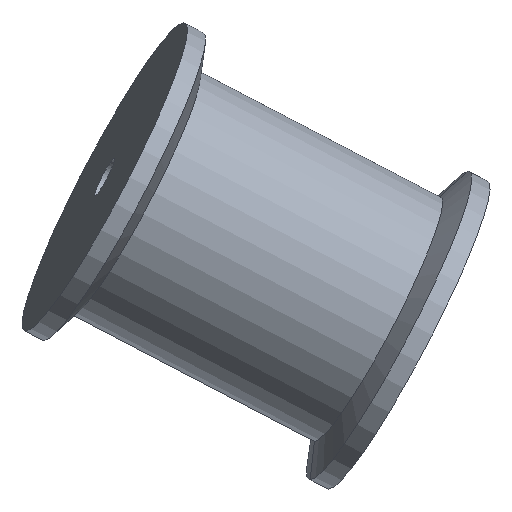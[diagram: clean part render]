
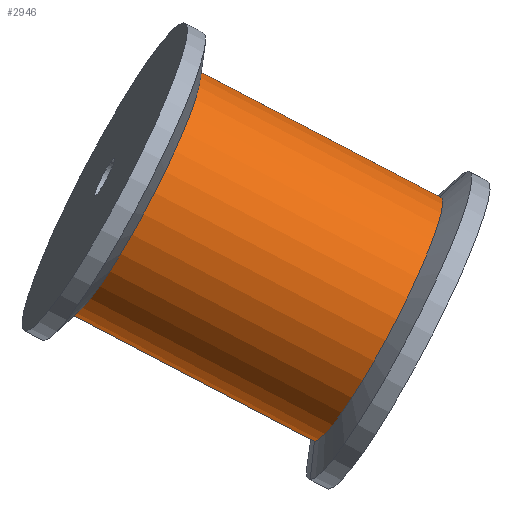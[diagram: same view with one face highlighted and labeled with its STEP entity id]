
A CAD part, front view. The second image highlights one B-rep face of the part: STEP entity #2946.
In plain terms, the highlighted cylindrical face has radius 20 mm (diameter 40 mm), a partial arc.
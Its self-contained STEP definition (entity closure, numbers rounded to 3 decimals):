
#89 = DIRECTION ( 'NONE',  ( -1., 0., 0. ) ) ;
#743 = CIRCLE ( 'NONE', #6991, 20. ) ;
#749 = EDGE_LOOP ( 'NONE', ( #3933, #4457, #9309, #9425 ) ) ;
#939 = VECTOR ( 'NONE', #9003, 1000. ) ;
#1070 = VERTEX_POINT ( 'NONE', #3242 ) ;
#1212 = CARTESIAN_POINT ( 'NONE',  ( 0., 0., 25. ) ) ;
#1274 = CYLINDRICAL_SURFACE ( 'NONE', #2013, 20. ) ;
#1624 = DIRECTION ( 'NONE',  ( 0., 0., -1. ) ) ;
#2013 = AXIS2_PLACEMENT_3D ( 'NONE', #1212, #3008, #2950 ) ;
#2020 = CARTESIAN_POINT ( 'NONE',  ( -20., 0., 20. ) ) ;
#2084 = CARTESIAN_POINT ( 'NONE',  ( 20., 0., -20. ) ) ;
#2387 = AXIS2_PLACEMENT_3D ( 'NONE', #3780, #9196, #89 ) ;
#2560 = LINE ( 'NONE', #2688, #939 ) ;
#2640 = DIRECTION ( 'NONE',  ( -1., 0., 0. ) ) ;
#2688 = CARTESIAN_POINT ( 'NONE',  ( 20., 0., 25. ) ) ;
#2701 = CARTESIAN_POINT ( 'NONE',  ( 20., 0., 20. ) ) ;
#2946 = ADVANCED_FACE ( 'NONE', ( #4902 ), #1274, .T. ) ;
#2950 = DIRECTION ( 'NONE',  ( -1., 0., 0. ) ) ;
#3008 = DIRECTION ( 'NONE',  ( 0., 0., -1. ) ) ;
#3242 = CARTESIAN_POINT ( 'NONE',  ( -20., 0., -20. ) ) ;
#3715 = CIRCLE ( 'NONE', #2387, 20. ) ;
#3780 = CARTESIAN_POINT ( 'NONE',  ( 0., 0., 20. ) ) ;
#3933 = ORIENTED_EDGE ( 'NONE', *, *, #6745, .F. ) ;
#4457 = ORIENTED_EDGE ( 'NONE', *, *, #9348, .T. ) ;
#4545 = EDGE_CURVE ( 'NONE', #5149, #1070, #743, .T. ) ;
#4566 = VERTEX_POINT ( 'NONE', #2701 ) ;
#4902 = FACE_OUTER_BOUND ( 'NONE', #749, .T. ) ;
#5149 = VERTEX_POINT ( 'NONE', #2084 ) ;
#5224 = VECTOR ( 'NONE', #1624, 1000. ) ;
#5340 = VERTEX_POINT ( 'NONE', #2020 ) ;
#6072 = LINE ( 'NONE', #9735, #5224 ) ;
#6745 = EDGE_CURVE ( 'NONE', #4566, #5149, #2560, .T. ) ;
#6991 = AXIS2_PLACEMENT_3D ( 'NONE', #10807, #9015, #2640 ) ;
#9003 = DIRECTION ( 'NONE',  ( 0., 0., -1. ) ) ;
#9015 = DIRECTION ( 'NONE',  ( 0., 0., -1. ) ) ;
#9196 = DIRECTION ( 'NONE',  ( 0., 0., -1. ) ) ;
#9309 = ORIENTED_EDGE ( 'NONE', *, *, #9701, .T. ) ;
#9348 = EDGE_CURVE ( 'NONE', #4566, #5340, #3715, .T. ) ;
#9425 = ORIENTED_EDGE ( 'NONE', *, *, #4545, .F. ) ;
#9701 = EDGE_CURVE ( 'NONE', #5340, #1070, #6072, .T. ) ;
#9735 = CARTESIAN_POINT ( 'NONE',  ( -20., 0., 25. ) ) ;
#10807 = CARTESIAN_POINT ( 'NONE',  ( 0., 0., -20. ) ) ;
